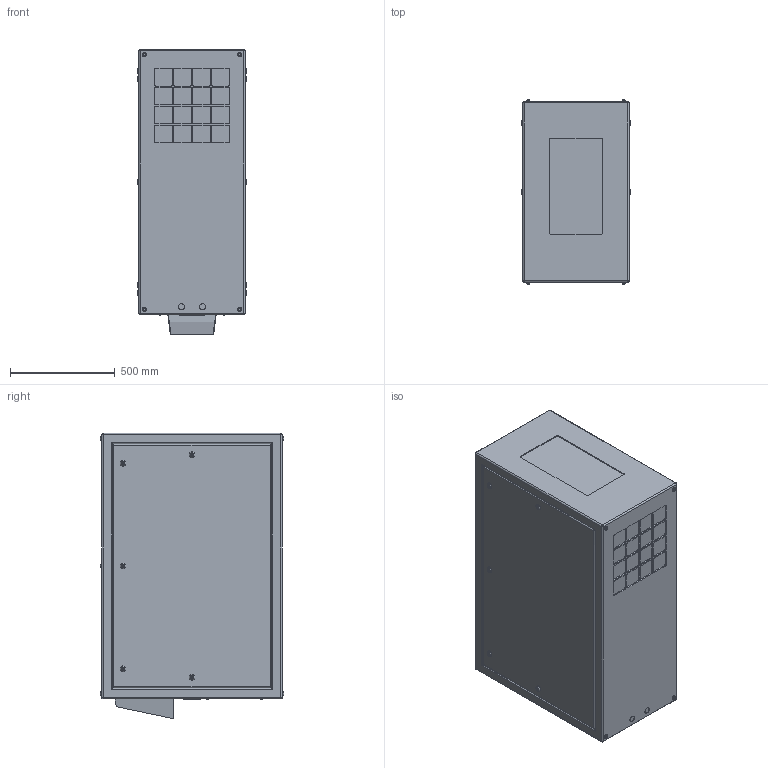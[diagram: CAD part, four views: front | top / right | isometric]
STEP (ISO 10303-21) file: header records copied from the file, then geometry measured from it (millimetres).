
FILE_DESCRIPTION (( 'STEP AP214' ), '1' );
FILE_NAME ('Cyclone 55.210.P R10.STEP', '2022-09-08T19:02:45', ( '' ), ( '' ), 'SwSTEP 2.0', 'SolidWorks 2020', '' );
FILE_SCHEMA (( 'AUTOMOTIVE_DESIGN' ));
Length unit declared in the file: inch
Products named in the file (1): Cyclone 55.210.P R10
Bounding box: 520.7 x 878.2 x 1365.25 mm (x, y, z)
Volume: 555743763.6 mm3; surface area: 4870038.2 mm2
Topology: 1 solids, 7 shells, 576 faces, 1344 edges, 860 vertices
Faces by surface type: plane 272, cylinder 244, torus 52, sphere 8
Entity records: 21519 total; most frequent: CARTESIAN_POINT 3381, DIRECTION 2934, ORIENTED_EDGE 2672, EDGE_CURVE 1336, AXIS2_PLACEMENT_3D 1117, VERTEX_POINT 860, LINE 700, VECTOR 700
